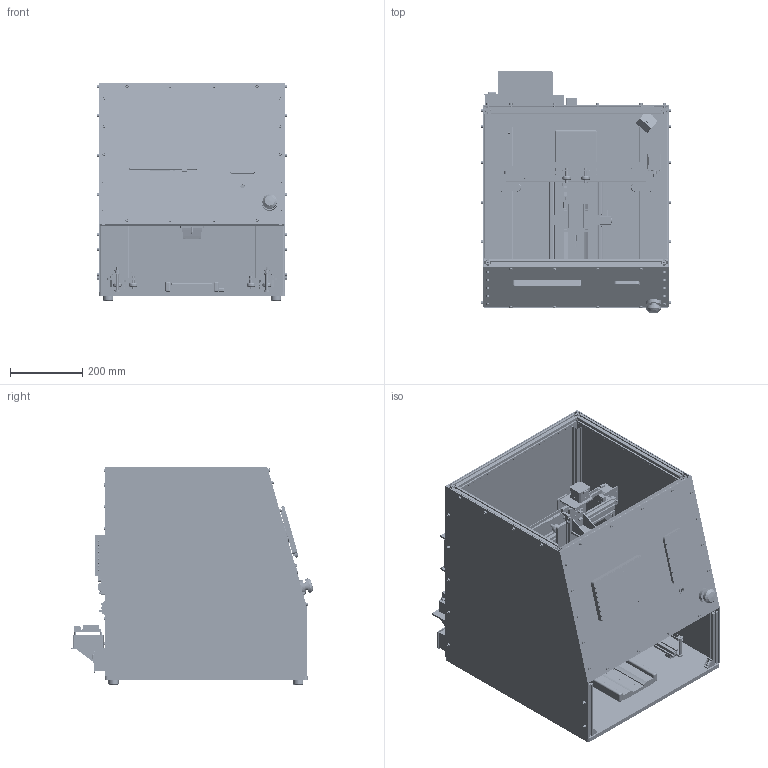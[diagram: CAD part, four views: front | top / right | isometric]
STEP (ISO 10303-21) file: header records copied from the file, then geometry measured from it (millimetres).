
FILE_DESCRIPTION(('Open CASCADE Model'),'2;1');
FILE_NAME('Open CASCADE Shape Model','2026-11-24T00:57:58',('Author'),( 'Open CASCADE'),'Open CASCADE STEP processor 7.9','Open CASCADE 7.9' ,'Unknown');
FILE_SCHEMA(('AUTOMOTIVE_DESIGN { 1 0 10303 214 1 1 1 1 }'));
Length unit declared in the file: millimetre
Products named in the file (364): UltraVena_rig_butterfly; electronics_bay; psu_24V_350W; psu_24V_350W__case; psu_24V_350W__internals; psu_24V_350W__terminal_block; psu_24V_350W__terminal_screws; fuse_block; fuse_block__base; fuse_block__blade_fuses; fuse_block__studs; converter_12V_D36V50F12; converter_12V_D36V50F12__board; converter_12V_D36V50F12__inductor; converter_12V_D36V50F12__capacitors; converter_12V_D36V50F12__regulator_ic; converter_12V_standoff; converter_12V_standoff_2; converter_12V_standoff_3; converter_12V_standoff_4; converter_12V_servo_D24V150F12; converter_12V_servo_D24V150F12__board; converter_12V_servo_D24V150F12__inductor; converter_12V_servo_D24V150F12__screw_terminals; converter_12V_servo_D24V150F12__capacitors; converter_12V_servo_standoff; converter_12V_servo_standoff_2; converter_12V_servo_standoff_3; converter_12V_servo_standoff_4; converter_6V_D36V28F6; converter_6V_D36V28F6__board; converter_6V_D36V28F6__inductor; converter_6V_D36V28F6__regulator_ic; converter_6V_spacer; converter_5V_D36V50F5; converter_5V_standoff; converter_5V_standoff_2; converter_5V_standoff_3; converter_5V_standoff_4; usb_hub_powered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
Assembly tree (539 placements, depth 10):
  UltraVena_rig_butterfly
    electronics_bay
      psu_24V_350W
        psu_24V_350W__case
        psu_24V_350W__internals
        psu_24V_350W__terminal_block
        psu_24V_350W__terminal_screws
      fuse_block
        fuse_block__base
        fuse_block__blade_fuses
        fuse_block__studs
      converter_12V_D36V50F12
        converter_12V_D36V50F12__board
        converter_12V_D36V50F12__inductor
        converter_12V_D36V50F12__capacitors
        converter_12V_D36V50F12__regulator_ic
      converter_12V_standoff
      converter_12V_standoff_2
      converter_12V_standoff_3
      converter_12V_standoff_4
      converter_12V_servo_D24V150F12
        converter_12V_servo_D24V150F12__board
        converter_12V_servo_D24V150F12__inductor
        converter_12V_servo_D24V150F12__screw_terminals
        converter_12V_servo_D24V150F12__capacitors
      converter_12V_servo_standoff
      converter_12V_servo_standoff_2
      converter_12V_servo_standoff_3
      converter_12V_servo_standoff_4
      converter_6V_D36V28F6
        converter_6V_D36V28F6__board
        converter_6V_D36V28F6__inductor
        converter_6V_D36V28F6__regulator_ic
      converter_6V_spacer
      converter_5V_D36V50F5
        converter_12V_D36V50F12__board
        converter_12V_D36V50F12__inductor
        converter_12V_D36V50F12__capacitors
        converter_12V_D36V50F12__regulator_ic
      converter_5V_standoff
      converter_5V_standoff_2
      converter_5V_standoff_3
      converter_5V_standoff_4
      usb_hub_powered
        usb_hub_powered__case
        usb_hub_powered__ports
        usb_hub_powered__dc_jack
      teensy_4_0
        teensy_4_0__board
        teensy_4_0__mcu
        teensy_4_0__usb_micro
        teensy_4_0__pin_headers
      teensy_carrier
      servo_bus_adapter
        servo_bus_adapter__board
        servo_bus_adapter__usb_c
        servo_bus_adapter__power_terminal
        servo_bus_adapter__servo_sockets
        servo_bus_adapter__uart_chip
      servo_bus_adapter_standoff
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Bounding box: 526 x 670.93 x 604 mm (x, y, z)
Volume: 12619306.1 mm3; surface area: 5444138.4 mm2
Topology: 514 solids, 514 shells, 5757 faces, 12667 edges, 8232 vertices
Faces by surface type: plane 4208, cylinder 1468, sphere 42, cone 31, bspline 8
Full cylindrical faces by diameter (mm): 2.2 x68, 2.4 x16, 2.5 x16, 2.6 x32, 2.8 x16, 3 x78, 3.2 x20, 3.4 x52, 3.5 x10, 4 x6, 4.2 x40, 4.4 x16, 4.8 x8, 5 x104, 5.1 x38, 5.2 x120, 5.4 x110, 6 x45, 6.2 x10, 6.4 x2, 6.8 x2, 8 x50, 8.4 x8, 8.5 x90, 10 x38, 10.2 x2, 10.4 x1, 11 x2, 12 x12, 12.1 x4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
Entity records: 230779 total; most frequent: CARTESIAN_POINT 41303, DIRECTION 35214, LINE 21965, VECTOR 21965, ORIENTED_EDGE 17190, PCURVE 17190, DEFINITIONAL_REPRESENTATION 17190, EDGE_CURVE 8595
